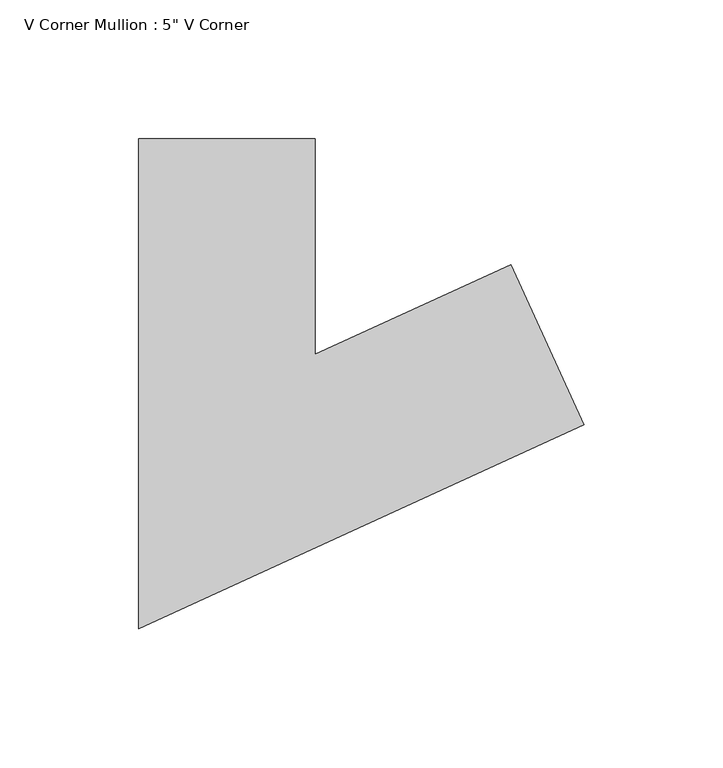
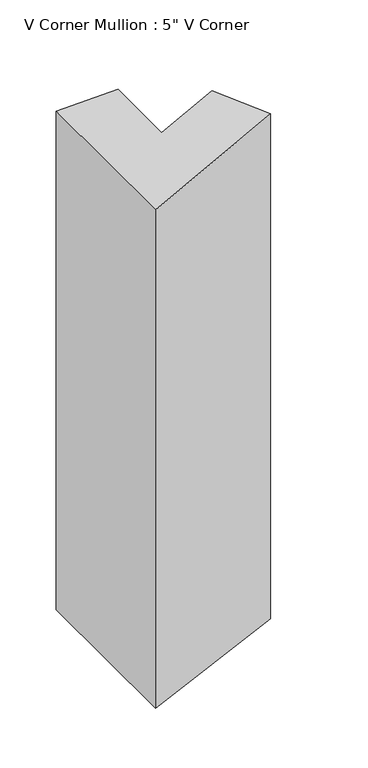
"""IFC4 building model written with IfcOpenShell, lengths in millimetres: member geometry."""

from ifc_helpers import new_model, si_unit, origin, place, context, project, spatial, faceted_brep, source, transform, mapped, element, save


def member_80d10c17(model_context):
    return source(origin(), model_context, "Body", "Brep", [
        faceted_brep([(61.49523, 18.2208415, 1.2299996), (87.9205542, -39.5195451, 1.7585469), (87.9205542, -39.5195451, -546.0474085), (61.49523, 18.2208415, -545.4194073), (-9.0228811, -14.0523047, -0.1804716), (-9.0228811, -14.0523047, -543.7435353), (-9.0228811, 63.5, -0.1804716), (-9.0228811, 63.5, -543.7435353), (-72.5228811, 63.5, -1.4505697), (-72.5228811, 63.5, -542.2344496), (-72.5228811, -112.9476953, -1.4505697), (-72.5228811, -112.9476953, -542.2344496)], [[[0, 1, 2, 3]], [[4, 0, 3, 5]], [[6, 4, 5, 7]], [[8, 6, 7, 9]], [[10, 8, 9, 11]], [[1, 10, 11, 2]], [[1, 0, 4, 6, 8, 10]], [[2, 11, 9, 7, 5, 3]]]),
    ])


if __name__ == "__main__":
    model = new_model("IFC4")
    model_context = context("Model", 3, world=origin())
    ifc_project = project(units=[si_unit("LENGTHUNIT", "METRE", prefix="MILLI")], contexts=[model_context])
    site = spatial("IfcSite", under=ifc_project)
    building = spatial("IfcBuilding", under=site)
    placement = place(None, origin())
    member_shape = member_80d10c17(model_context)
    element("IfcMember", 1, ObjectType="V Corner Mullion : 5\" V Corner", at=placement, inside=building, context=model_context, shape_type="MappedRepresentation", body=[
        mapped(member_shape, transform((0.0, 0.0, 0.0), x_axis=(1.0, 0.0, 0.0), y_axis=(0.0, 1.0, 0.0), z_axis=(0.0, 0.0, 1.0))),
    ])
    save(model, "model.ifc")
